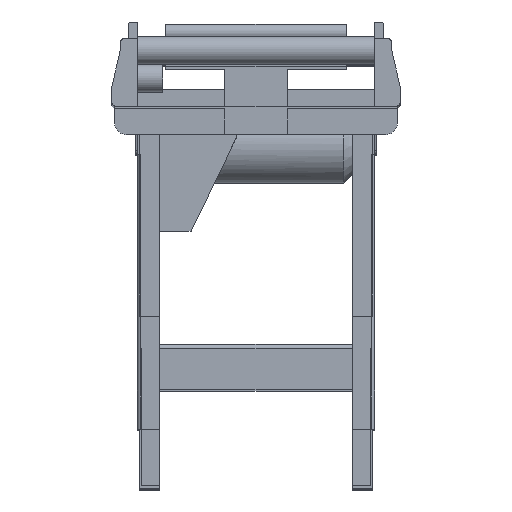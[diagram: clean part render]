
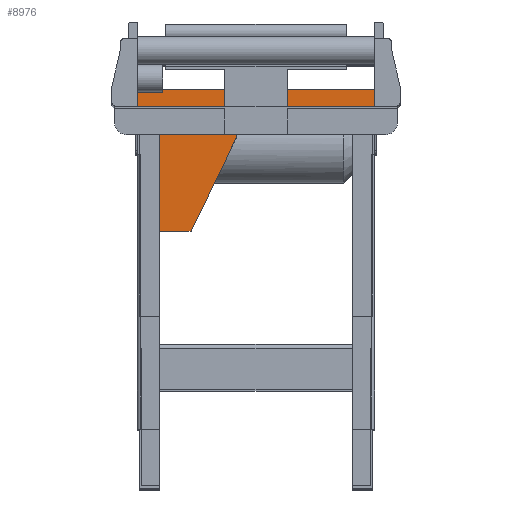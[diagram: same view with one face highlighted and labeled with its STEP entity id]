
A CAD part, top view. The second image highlights one B-rep face of the part: STEP entity #8976.
In plain terms, the highlighted planar face has unit normal (0, 0, 1).
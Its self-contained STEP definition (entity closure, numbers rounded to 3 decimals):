
#8315=CARTESIAN_POINT('',(-210.,-220.,-702.5));
#8316=VERTEX_POINT('',#8315);
#8323=CARTESIAN_POINT('',(-210.,25.,-702.5));
#8324=VERTEX_POINT('',#8323);
#8325=CARTESIAN_POINT('',(-210.,-220.,-702.5));
#8326=DIRECTION('',(0.0,1.0,0.0));
#8327=VECTOR('',#8326,245.);
#8328=LINE('',#8325,#8327);
#8329=EDGE_CURVE('',#8316,#8324,#8328,.T.);
#8385=CARTESIAN_POINT('',(-210.,27.,-702.5));
#8386=VERTEX_POINT('',#8385);
#8393=CARTESIAN_POINT('',(-210.0,30.0,-702.5));
#8394=VERTEX_POINT('',#8393);
#8395=CARTESIAN_POINT('',(-210.,27.,-702.5));
#8396=DIRECTION('',(0.0,1.0,0.0));
#8397=VECTOR('',#8396,3.);
#8398=LINE('',#8395,#8397);
#8399=EDGE_CURVE('',#8386,#8394,#8398,.T.);
#8519=CARTESIAN_POINT('',(-165.0,25.,-702.5));
#8520=VERTEX_POINT('',#8519);
#8521=CARTESIAN_POINT('',(-165.0,25.,-702.5));
#8522=DIRECTION('',(-1.0,0.0,0.0));
#8523=VECTOR('',#8522,45.);
#8524=LINE('',#8521,#8523);
#8525=EDGE_CURVE('',#8520,#8324,#8524,.T.);
#8600=CARTESIAN_POINT('',(-165.0,27.,-702.5));
#8601=VERTEX_POINT('',#8600);
#8608=CARTESIAN_POINT('',(-210.,27.,-702.5));
#8609=DIRECTION('',(1.0,0.0,0.0));
#8610=VECTOR('',#8609,45.);
#8611=LINE('',#8608,#8610);
#8612=EDGE_CURVE('',#8386,#8601,#8611,.T.);
#8641=CARTESIAN_POINT('',(-165.0,27.,-702.5));
#8642=DIRECTION('',(0.0,-1.0,0.0));
#8643=VECTOR('',#8642,2.);
#8644=LINE('',#8641,#8643);
#8645=EDGE_CURVE('',#8601,#8520,#8644,.T.);
#8882=CARTESIAN_POINT('',(-35.,-5.,-702.5));
#8883=VERTEX_POINT('',#8882);
#8890=CARTESIAN_POINT('',(-35.,-55.,-702.5));
#8891=VERTEX_POINT('',#8890);
#8892=CARTESIAN_POINT('',(-35.,-5.,-702.5));
#8893=DIRECTION('',(0.0,-1.0,0.0));
#8894=VECTOR('',#8893,50.);
#8895=LINE('',#8892,#8894);
#8896=EDGE_CURVE('',#8883,#8891,#8895,.T.);
#8915=CARTESIAN_POINT('',(-115.,-220.,-702.5));
#8916=VERTEX_POINT('',#8915);
#8917=CARTESIAN_POINT('',(-115.,-220.,-702.5));
#8918=DIRECTION('',(0.436,0.9,0.0));
#8919=VECTOR('',#8918,183.371);
#8920=LINE('',#8917,#8919);
#8921=EDGE_CURVE('',#8916,#8891,#8920,.T.);
#8934=CARTESIAN_POINT('',(-210.0,30.0,-702.5));
#8935=DIRECTION('',(0.0,0.0,1.0));
#8936=DIRECTION('',(0.0,-1.0,0.0));
#8937=AXIS2_PLACEMENT_3D('',#8934,#8935,#8936);
#8938=PLANE('',#8937);
#8939=ORIENTED_EDGE('',*,*,#8612,.T.);
#8940=ORIENTED_EDGE('',*,*,#8645,.T.);
#8941=ORIENTED_EDGE('',*,*,#8525,.T.);
#8942=ORIENTED_EDGE('',*,*,#8329,.F.);
#8943=CARTESIAN_POINT('',(-210.,-220.,-702.5));
#8944=DIRECTION('',(1.0,0.0,0.0));
#8945=VECTOR('',#8944,95.0);
#8946=LINE('',#8943,#8945);
#8947=EDGE_CURVE('',#8316,#8916,#8946,.T.);
#8948=ORIENTED_EDGE('',*,*,#8947,.T.);
#8949=ORIENTED_EDGE('',*,*,#8921,.T.);
#8950=ORIENTED_EDGE('',*,*,#8896,.F.);
#8951=CARTESIAN_POINT('',(210.,-5.,-702.5));
#8952=VERTEX_POINT('',#8951);
#8953=CARTESIAN_POINT('',(-35.,-5.,-702.5));
#8954=DIRECTION('',(1.0,0.0,0.0));
#8955=VECTOR('',#8954,245.0);
#8956=LINE('',#8953,#8955);
#8957=EDGE_CURVE('',#8883,#8952,#8956,.T.);
#8958=ORIENTED_EDGE('',*,*,#8957,.T.);
#8959=CARTESIAN_POINT('',(210.,30.,-702.5));
#8960=VERTEX_POINT('',#8959);
#8961=CARTESIAN_POINT('',(210.,30.,-702.5));
#8962=DIRECTION('',(0.0,-1.0,0.0));
#8963=VECTOR('',#8962,35.0);
#8964=LINE('',#8961,#8963);
#8965=EDGE_CURVE('',#8960,#8952,#8964,.T.);
#8966=ORIENTED_EDGE('',*,*,#8965,.F.);
#8967=CARTESIAN_POINT('',(-210.0,30.0,-702.5));
#8968=DIRECTION('',(1.0,0.0,0.0));
#8969=VECTOR('',#8968,420.0);
#8970=LINE('',#8967,#8969);
#8971=EDGE_CURVE('',#8394,#8960,#8970,.T.);
#8972=ORIENTED_EDGE('',*,*,#8971,.F.);
#8973=ORIENTED_EDGE('',*,*,#8399,.F.);
#8974=EDGE_LOOP('',(#8939,#8940,#8941,#8942,#8948,#8949,#8950,#8958,#8966,#8972,#8973));
#8975=FACE_OUTER_BOUND('',#8974,.T.);
#8976=ADVANCED_FACE('',(#8975),#8938,.T.);
